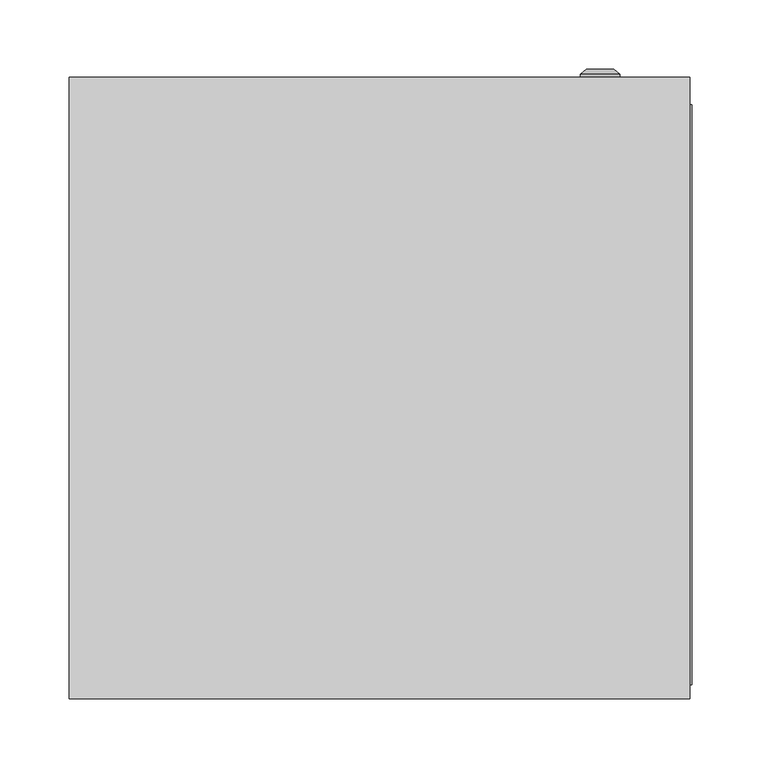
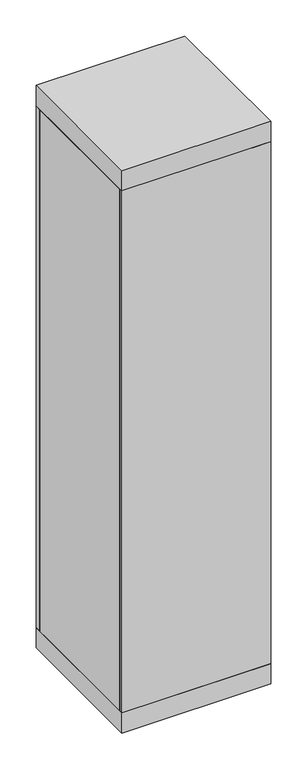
"""IFC4 building model written with IfcOpenShell, lengths in millimetres: proxy geometry, ВРУ-1_IP54 : ВРУ-1_1800х450х450."""

from ifc_helpers import new_model, si_unit, frame, origin, origin_with_axes, place, context, project, spatial, polyline, circle_curve, outline, extrude, source, transform, mapped, element, save
from ifc_brep_helpers import plane_surface, cylinder_surface, revolved_surface, advanced_brep


def electrical_equipment_1ee536cc(model_context):
    return source(origin(), model_context, "Body", "SolidModel", [
        extrude(outline(polyline([(225.0, 0.0), (-225.0, 0.0), (-225.0, 10.0), (225.0, 10.0), (225.0, 0.0)])), frame((0.0, 0.0, 65.0187804), z_axis=(0.0, 0.0, 1.0), x_axis=(1.0, 0.0, 0.0)), (0.0, 0.0, 1.0), 1669.9812196),
        extrude(outline(polyline([(-180.8707865, 125.9831461), (-140.8707865, 125.9831461), (-140.8707865, 93.1179775), (-143.8707865, 93.1179775), (-143.8707865, 122.9831461), (-177.8707865, 122.9831461), (-177.8707865, 93.1179775), (-180.8707865, 93.1179775), (-180.8707865, 125.9831461)])), frame((0.0, 0.0, 189.6067416), z_axis=(0.0, 0.0, 1.0), x_axis=(1.0, 0.0, 0.0)), (0.0, 0.0, 1.0), 1545.3932584),
        extrude(outline(polyline([(140.8707865, 125.9831461), (180.8707865, 125.9831461), (180.8707865, 93.1179775), (177.8707865, 93.1179775), (177.8707865, 122.9831461), (143.8707865, 122.9831461), (143.8707865, 93.1179775), (140.8707865, 93.1179775), (140.8707865, 125.9831461)])), frame((0.0, 0.0, 189.6067416), z_axis=(0.0, 0.0, 1.0), x_axis=(1.0, 0.0, 0.0)), (0.0, 0.0, 1.0), 1545.3932584),
        extrude(outline(polyline([(-180.8707865, 10.0), (-190.8707865, 10.0), (-190.8707865, 430.0), (-180.8707865, 430.0), (-180.8707865, 10.0)])), frame((0.0, 0.0, 1645.5966059), z_axis=(0.0, 0.0, 1.0), x_axis=(1.0, 0.0, 0.0)), (0.0, 0.0, 1.0), 53.0898876),
        extrude(outline(polyline([(190.8707865, 10.0), (180.8707865, 10.0), (180.8707865, 430.0), (190.8707865, 430.0), (190.8707865, 10.0)])), frame((0.0, 0.0, 1645.5966059), z_axis=(0.0, 0.0, 1.0), x_axis=(1.0, 0.0, 0.0)), (0.0, 0.0, 1.0), 53.0898876),
        extrude(outline(polyline([(-180.8707865, 10.0), (-190.8707865, 10.0), (-190.8707865, 430.0), (-180.8707865, 430.0), (-180.8707865, 10.0)])), frame((0.0, 0.0, 255.5966059), z_axis=(0.0, 0.0, 1.0), x_axis=(1.0, 0.0, 0.0)), (0.0, 0.0, 1.0), 53.0898876),
        extrude(outline(polyline([(190.8707865, 10.0), (180.8707865, 10.0), (180.8707865, 430.0), (190.8707865, 430.0), (190.8707865, 10.0)])), frame((0.0, 0.0, 255.5966059), z_axis=(0.0, 0.0, 1.0), x_axis=(1.0, 0.0, 0.0)), (0.0, 0.0, 1.0), 53.0898876),
        extrude(outline(polyline([(-180.8707865, 10.0), (-190.8707865, 10.0), (-190.8707865, 430.0), (-180.8707865, 430.0), (-180.8707865, 10.0)])), frame((0.0, 0.0, 835.5966059), z_axis=(0.0, 0.0, 1.0), x_axis=(1.0, 0.0, 0.0)), (0.0, 0.0, 1.0), 53.0898876),
        extrude(outline(polyline([(190.8707865, 10.0), (180.8707865, 10.0), (180.8707865, 430.0), (190.8707865, 430.0), (190.8707865, 10.0)])), frame((0.0, 0.0, 835.5966059), z_axis=(0.0, 0.0, 1.0), x_axis=(1.0, 0.0, 0.0)), (0.0, 0.0, 1.0), 53.0898876),
        extrude(outline(polyline([(1735.0, -225.0), (65.0187804, -225.0), (65.0187804, 226.2640449), (1735.0, 226.2640449), (1735.0, -225.0)]), holes=[polyline([(93.3701084, 190.8707865), (93.3701084, -188.3426966), (1692.9861595, -188.3426966), (1692.9861595, 190.8707865), (93.3701084, 190.8707865)])]), frame((0.0, 10.0, 0.0), z_axis=(0.0, 1.0, 0.0), x_axis=(0.0, 0.0, 1.0)), (0.0, 0.0, 1.0), 420.0),
        extrude(outline(polyline([(225.0067809, 450.0), (225.0067809, 0.0), (-225.0, 0.0), (-225.0, 450.0), (225.0067809, 450.0)])), frame((0.0, 0.0, 1735.0), z_axis=(0.0, 0.0, 1.0), x_axis=(1.0, 0.0, 0.0)), (0.0, 0.0, 1.0), 65.0),
        advanced_brep(
        [(145.669873, 450.0, 415.0), (174.330127, 450.0, 415.0), (160.0, 450.0, 415.0), (145.669873, 452.366592, 415.0), (174.330127, 452.366592, 415.0), (150.0, 456.0, 415.0), (170.0, 456.0, 415.0), (158.1080471, 456.0, 415.0), (161.8919529, 456.0, 415.0), (158.1080471, 454.9822294, 415.0), (161.8919529, 454.9822294, 415.0), (160.0, 454.9822294, 415.0)],
        [
            (0, 1, circle_curve(frame((160.0, 450.0, 415.0), z_axis=(0.0, -1.0, 0.0), x_axis=(1.0, 0.0, 0.0)), 14.330127)),
            (1, 2),
            (2, 0),
            (1, 0, circle_curve(frame((160.0, 450.0, 415.0), z_axis=(0.0, -1.0, 0.0), x_axis=(1.0, 0.0, 0.0)), 14.330127)),
            (3, 4, circle_curve(frame((160.0, 452.366592, 415.0), z_axis=(0.0, -1.0, 0.0), x_axis=(1.0, 0.0, 0.0)), 14.330127)),
            (4, 1),
            (0, 3),
            (4, 3, circle_curve(frame((160.0, 452.366592, 415.0), z_axis=(0.0, -1.0, 0.0), x_axis=(1.0, 0.0, 0.0)), 14.330127)),
            (5, 6, circle_curve(frame((160.0, 456.0, 415.0), z_axis=(0.0, -1.0, 0.0), x_axis=(1.0, 0.0, 0.0)), 10.0)),
            (6, 4),
            (3, 5),
            (6, 5, circle_curve(frame((160.0, 456.0, 415.0), z_axis=(0.0, -1.0, 0.0), x_axis=(1.0, 0.0, 0.0)), 10.0)),
            (7, 8, circle_curve(frame((160.0, 456.0, 415.0), z_axis=(0.0, -1.0, 0.0), x_axis=(1.0, 0.0, 0.0)), 1.8919529)),
            (8, 6),
            (5, 7),
            (8, 7, circle_curve(frame((160.0, 456.0, 415.0), z_axis=(0.0, -1.0, 0.0), x_axis=(1.0, 0.0, 0.0)), 1.8919529)),
            (9, 10, circle_curve(frame((160.0, 454.9822294, 415.0), z_axis=(0.0, -1.0, 0.0), x_axis=(1.0, 0.0, 0.0)), 1.8919529)),
            (10, 8),
            (7, 9),
            (10, 9, circle_curve(frame((160.0, 454.9822294, 415.0), z_axis=(0.0, -1.0, 0.0), x_axis=(1.0, 0.0, 0.0)), 1.8919529)),
            (11, 10),
            (9, 11),
        ],
        [
            plane_surface(frame((160.0, 450.0, 415.0), z_axis=(0.0, -1.0, 0.0), x_axis=(1.0, 0.0, 0.0))),
            cylinder_surface(frame((160.0, 463.1348851, 415.0), z_axis=(0.0, 1.0, 0.0), x_axis=(1.0, 0.0, 0.0)), 14.330127),
            revolved_surface(polyline([(174.330127, 452.366592, 415.0), (170.0, 456.0, 415.0)]), (160.0, 463.1348851, 415.0), (0.0, 1.0, 0.0)),
            plane_surface(frame((160.0, 456.0, 415.0), z_axis=(0.0, 1.0, 0.0), x_axis=(1.0, 0.0, 0.0))),
            revolved_surface(polyline([(161.8919529, 456.0, 415.0), (161.8919529, 454.9822294, 415.0)]), (160.0, 463.1348851, 415.0), (0.0, 1.0, 0.0)),
            plane_surface(frame((160.0, 454.9822294, 415.0), z_axis=(0.0, 1.0, 0.0), x_axis=(1.0, 0.0, 0.0))),
        ],
        [
            (0, [[1, 2, 3]]),
            (0, [[4, -3, -2]]),
            (1, [[5, 6, -1, 7]]),
            (1, [[8, -7, -4, -6]]),
            (2, [[9, 10, -5, 11]]),
            (2, [[12, -11, -8, -10]]),
            (3, [[13, 14, -9, 15]]),
            (3, [[16, -15, -12, -14]]),
            (4, [[17, 18, -13, 19]]),
            (4, [[20, -19, -16, -18]]),
            (5, [[21, -17, 22]]),
            (5, [[-22, -20, -21]]),
        ],
    ),
        advanced_brep(
        [(145.669873, 450.0, 1385.0), (174.330127, 450.0, 1385.0), (160.0, 450.0, 1385.0), (145.669873, 452.366592, 1385.0), (174.330127, 452.366592, 1385.0), (150.0, 456.0, 1385.0), (170.0, 456.0, 1385.0), (158.1080471, 456.0, 1385.0), (161.8919529, 456.0, 1385.0), (158.1080471, 454.9822294, 1385.0), (161.8919529, 454.9822294, 1385.0), (160.0, 454.9822294, 1385.0)],
        [
            (0, 1, circle_curve(frame((160.0, 450.0, 1385.0), z_axis=(0.0, -1.0, 0.0), x_axis=(1.0, 0.0, 0.0)), 14.330127)),
            (1, 2),
            (2, 0),
            (1, 0, circle_curve(frame((160.0, 450.0, 1385.0), z_axis=(0.0, -1.0, 0.0), x_axis=(1.0, 0.0, 0.0)), 14.330127)),
            (3, 4, circle_curve(frame((160.0, 452.366592, 1385.0), z_axis=(0.0, -1.0, 0.0), x_axis=(1.0, 0.0, 0.0)), 14.330127)),
            (4, 1),
            (0, 3),
            (4, 3, circle_curve(frame((160.0, 452.366592, 1385.0), z_axis=(0.0, -1.0, 0.0), x_axis=(1.0, 0.0, 0.0)), 14.330127)),
            (5, 6, circle_curve(frame((160.0, 456.0, 1385.0), z_axis=(0.0, -1.0, 0.0), x_axis=(1.0, 0.0, 0.0)), 10.0)),
            (6, 4),
            (3, 5),
            (6, 5, circle_curve(frame((160.0, 456.0, 1385.0), z_axis=(0.0, -1.0, 0.0), x_axis=(1.0, 0.0, 0.0)), 10.0)),
            (7, 8, circle_curve(frame((160.0, 456.0, 1385.0), z_axis=(0.0, -1.0, 0.0), x_axis=(1.0, 0.0, 0.0)), 1.8919529)),
            (8, 6),
            (5, 7),
            (8, 7, circle_curve(frame((160.0, 456.0, 1385.0), z_axis=(0.0, -1.0, 0.0), x_axis=(1.0, 0.0, 0.0)), 1.8919529)),
            (9, 10, circle_curve(frame((160.0, 454.9822294, 1385.0), z_axis=(0.0, -1.0, 0.0), x_axis=(1.0, 0.0, 0.0)), 1.8919529)),
            (10, 8),
            (7, 9),
            (10, 9, circle_curve(frame((160.0, 454.9822294, 1385.0), z_axis=(0.0, -1.0, 0.0), x_axis=(1.0, 0.0, 0.0)), 1.8919529)),
            (11, 10),
            (9, 11),
        ],
        [
            plane_surface(frame((160.0, 450.0, 1385.0), z_axis=(0.0, -1.0, 0.0), x_axis=(1.0, 0.0, 0.0))),
            cylinder_surface(frame((160.0, 463.1348851, 1385.0), z_axis=(0.0, 1.0, 0.0), x_axis=(1.0, 0.0, 0.0)), 14.330127),
            revolved_surface(polyline([(174.330127, 452.366592, 1385.0), (170.0, 456.0, 1385.0)]), (160.0, 463.1348851, 1385.0), (0.0, 1.0, 0.0)),
            plane_surface(frame((160.0, 456.0, 1385.0), z_axis=(0.0, 1.0, 0.0), x_axis=(1.0, 0.0, 0.0))),
            revolved_surface(polyline([(161.8919529, 456.0, 1385.0), (161.8919529, 454.9822294, 1385.0)]), (160.0, 463.1348851, 1385.0), (0.0, 1.0, 0.0)),
            plane_surface(frame((160.0, 454.9822294, 1385.0), z_axis=(0.0, 1.0, 0.0), x_axis=(1.0, 0.0, 0.0))),
        ],
        [
            (0, [[1, 2, 3]]),
            (0, [[4, -3, -2]]),
            (1, [[5, 6, -1, 7]]),
            (1, [[8, -7, -4, -6]]),
            (2, [[9, 10, -5, 11]]),
            (2, [[12, -11, -8, -10]]),
            (3, [[13, 14, -9, 15]]),
            (3, [[16, -15, -12, -14]]),
            (4, [[17, 18, -13, 19]]),
            (4, [[20, -19, -16, -18]]),
            (5, [[21, -17, 22]]),
            (5, [[-22, -20, -21]]),
        ],
    ),
        extrude(outline(polyline([(225.0067809, 450.0), (225.0067809, 0.0), (-225.0, 0.0), (-225.0, 450.0), (225.0067809, 450.0)])), origin_with_axes(), (0.0, 0.0, 1.0), 65.0187804),
        extrude(outline(polyline([(225.0, 430.0), (-225.0, 430.0), (-225.0, 450.0), (225.0, 450.0), (225.0, 430.0)])), frame((0.0, 0.0, 65.0187804), z_axis=(0.0, 0.0, 1.0), x_axis=(1.0, 0.0, 0.0)), (0.0, 0.0, 1.0), 1669.9812196),
    ])


if __name__ == "__main__":
    model = new_model("IFC4")
    model_context = context("Model", 3, world=origin())
    ifc_project = project(units=[si_unit("LENGTHUNIT", "METRE", prefix="MILLI")], contexts=[model_context])
    site = spatial("IfcSite", under=ifc_project)
    building = spatial("IfcBuilding", under=site)
    placement = place(None, origin())
    electrical_equipment_shape = electrical_equipment_1ee536cc(model_context)
    element("IfcBuildingElementProxy", 1, Name="ВРУ-1_IP54 : ВРУ-1_1800х450х450", ObjectType="ВРУ-1_IP54 : ВРУ-1_1800х450х450", at=placement, inside=building, context=model_context, shape_type="MappedRepresentation", body=[
        mapped(electrical_equipment_shape, transform((0.0, 0.0, 0.0), x_axis=(1.0, 0.0, 0.0), y_axis=(0.0, 1.0, 0.0), z_axis=(0.0, 0.0, 1.0))),
    ])
    save(model, "model.ifc")
